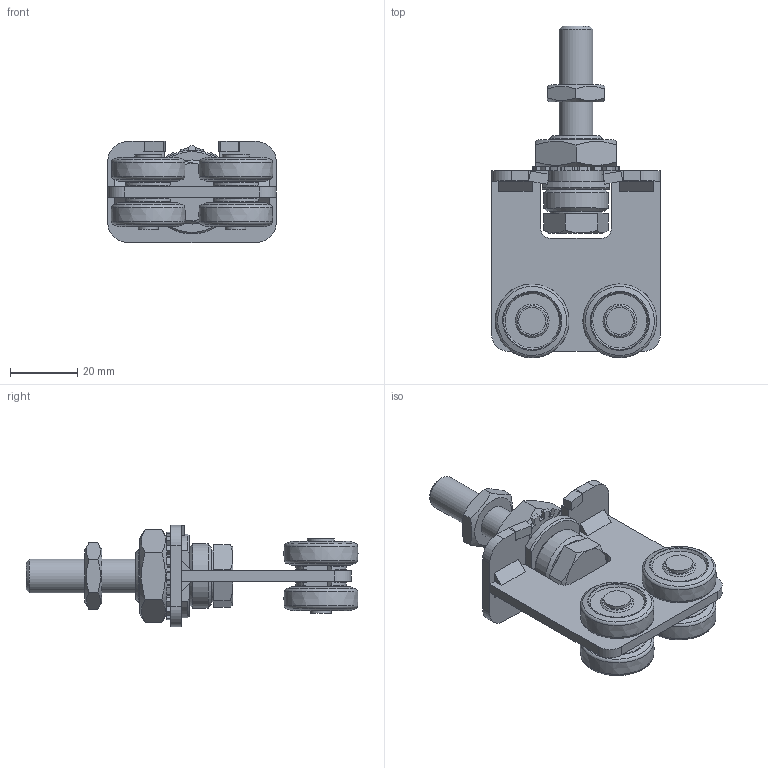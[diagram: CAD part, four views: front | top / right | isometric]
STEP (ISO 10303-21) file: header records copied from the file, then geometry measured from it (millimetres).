
FILE_DESCRIPTION(/* description */ ('Doppelrolle Horizontal Nr.0'),/* implementation_level */ '2;1');
FILE_NAME(/* name */ 'Q:\sge-ma\Produktmanagement-STB\STB\Workspace\TraceParts\Doppelrolle horizontrale drehbar\010336472.stp',/* time_stamp */ '2018-02-21T14:12:32+01:00',/* author */ ('avschreier'),/* organization */ (''),/* preprocessor_version */ 'ST-DEVELOPER v16.1',/* originating_system */ 'Autodesk Inventor 2016',/* authorisation */ '');
FILE_SCHEMA (('CONFIG_CONTROL_DESIGN'));
Length unit declared in the file: millimetre
Products named in the file (13): 010336472_Schweißnähte; 000302090; 000302086; 000303234; 336290000; 000304010; 000302007; 000302015; DIN_EN_ISO_4017-M10x55_en; DIN_EN_ISO_4035-M10_en; DIN_6798-A_17_en; DIN_EN_ISO_4035-M16_en; 010336472
Assembly tree (19 placements, depth 2):
  010336472
    010336472_Schweißnähte
    000302090
    000302086
    000303234  x4
    336290000  x4
    000304010  x2
    000302007
    000302015
    DIN_EN_ISO_4017-M10x55_en
    DIN_EN_ISO_4035-M10_en
    DIN_6798-A_17_en
    DIN_EN_ISO_4035-M16_en
Bounding box: 50 x 98.5 x 30 mm (x, y, z)
Volume: 33568.6 mm3; surface area: 24429.9 mm2
Topology: 22 solids, 22 shells, 420 faces, 1021 edges, 662 vertices
Faces by surface type: plane 226, cylinder 119, cone 61, torus 10, bspline 4
Full cylindrical faces by diameter (mm): 6 x6, 6.1 x4, 8 x2, 8.376 x1, 9.188 x1, 10 x2, 10.3 x1, 13.835 x1, 15.4 x1, 16 x1, 17 x1, 19 x1
Entity records: 9539 total; most frequent: CARTESIAN_POINT 1716, DIRECTION 1650, ORIENTED_EDGE 1488, EDGE_CURVE 744, AXIS2_PLACEMENT_3D 605, VERTEX_POINT 509, LINE 440, VECTOR 440
